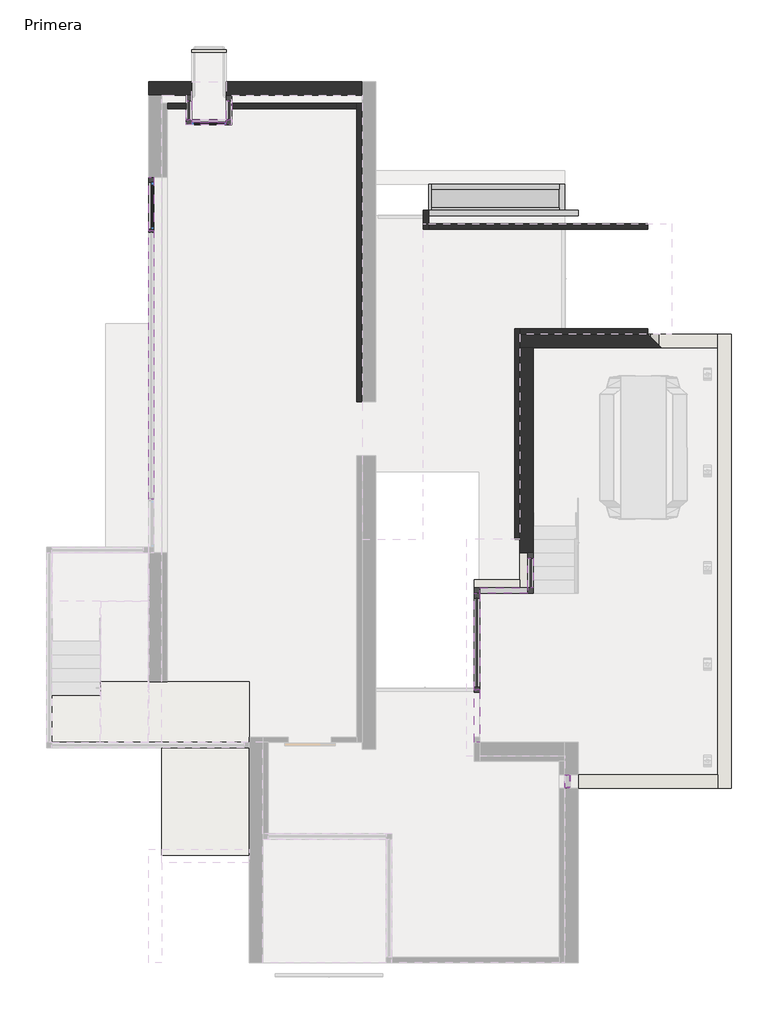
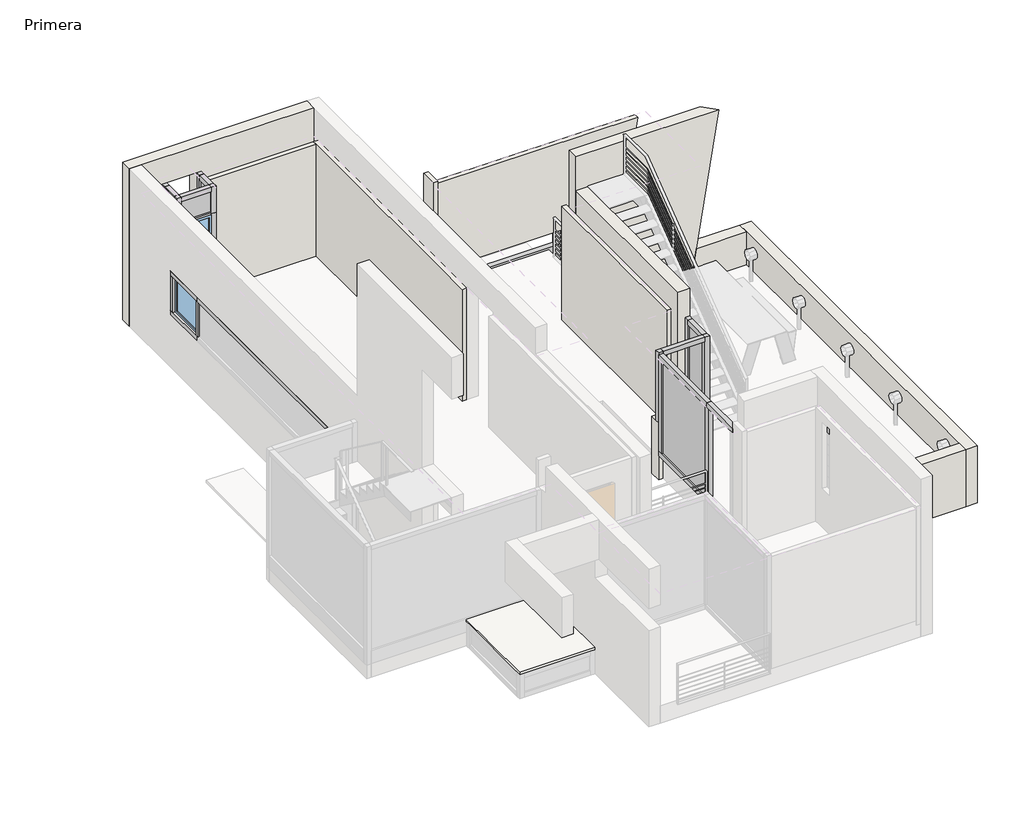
# One storey, part 2 of 3: 59 members, 15 walls, 8 plates, 2 windows, 1 slab.
"""IFC4 building model written with IfcOpenShell, lengths in millimetres."""

from ifc_helpers import new_model, si_unit, frame, origin, place, context, project, spatial, polyline, outline, extrude, faceted_brep, transform, mapped, element, save
from components import member_53e74821, member_35746a04, member_ea5f2fb6, member_b3e309fe, montante_rectangular_20dad572, montante_rectangular_c9d8d644, montante_rectangular_d329d11d, montante_rectangular_d5d69b61, montante_rectangular_8270ee6e, montante_rectangular_montante_rectangular_10_x_10_cm_5888d3a4, montante_rectangular_montante_rectangular_10_x_10_cm_89c0dae9, montante_rectangular_montante_rectangular_10_x_10_cm_12f51ba4, montante_rectangular_montante_rectangular_10_x_10_cm_d035b39a, montante_rectangular_montante_rectangular_10_x_10_cm_0e383af4, montante_rectangular_montante_rectangular_10_x_10_cm_1e5e4e1f, montante_rectangular_montante_rectangular_10_x_10_cm_71f1473e, montante_rectangular_montante_rectangular_10_x_10_cm_76212c23, montante_rectangular_montante_rectangular_10_x_10_cm_939e88b2, montante_rectangular_montante_rectangular_10_x_10_cm_9910a803, montante_rectangular_montante_rectangular_10_x_10_cm_3b1728c8, montante_rectangular_montante_rectangular_10_x_10_cm_3a18ed24, montante_rectangular_montante_rectangular_10_x_10_cm_2760fa18, montante_rectangular_montante_rectangular_10_x_10_cm_9171b38a, montante_rectangular_montante_rectangular_10_x_10_cm_30394dbc, montante_rectangular_montante_rectangular_10_x_10_cm_829b1a72, montante_rectangular_montante_rectangular_10_x_10_cm_59fce455, montante_rectangular_montante_rectangular_10_x_10_cm_853d8368, montante_rectangular_montante_rectangular_10_x_10_cm_39c741db, montante_rectangular_montante_rectangular_10_x_10_cm_77bf927c, montante_rectangular_montante_rectangular_10_x_10_cm_4ad2c390, montante_rectangular_montante_rectangular_10_x_10_cm_8664a1aa, montante_rectangular_montante_rectangular_10_x_10_cm_64f844ee, montante_rectangular_montante_rectangular_30_x_10_cm_1575974a, montante_rectangular_montante_rectangular_30_x_10_cm_28c26dfe, montante_rectangular_montante_rectangular_5_x_10_cm_f5fbba73, montante_rectangular_montante_rectangular_5_x_10_cm_4604db76, montante_rectangular_montante_rectangular_5_x_10_cm_2290ae2b, montante_rectangular_montante_rectangular_5_x_10_cm_23ce018d, montante_rectangular_montante_rectangular_50_x_10_cm_6a0f9e60, panel_de_sistema_f0514aad, panel_de_sistema_acristalado_718d59bf, panel_de_sistema_acristalado_a3c40d10, panel_de_sistema_acristalado_4d856043, panel_de_sistema_acristalado_f2764a35, panel_de_sistema_acristalado_8c370545, panel_de_sistema_uniforme_2ffce642, ventana_de_muro_cortina_ventana_de_muro_cortina_e1bbbce5, ventana_de_muro_cortina_ventana_de_muro_cortina_55f6ba8d

model = new_model("IFC4")

# Units and contexts
model_context = context("Model", 3, world=origin())
ifc_project = project(units=[si_unit("LENGTHUNIT", "METRE", prefix="MILLI")], contexts=[model_context])

# Site, building, storey
site = spatial("IfcSite", under=ifc_project)
building = spatial("IfcBuilding", under=site)
storey = spatial("IfcBuildingStorey", under=building, Name="Primera", Elevation=3000.0)

# Members
placement = place(None, origin())
member_shape = member_53e74821(model_context)
element("IfcMember", 1, ObjectType="Montante angular cuadrilátero : Montante cuadrilátero 1", at=placement, inside=storey, context=model_context, shape_type="MappedRepresentation", body=[
    mapped(member_shape, transform((2885.5350958, -5212.6669037, 4000.0), x_axis=(0.0, -1.0, 0.0), y_axis=(-1.0, 0.0, 0.0), z_axis=(0.0, 0.0, -1.0))),
])
member_2_shape = member_35746a04(model_context)
element("IfcMember", 2, ObjectType="Montante angular cuadrilátero : Montante cuadrilátero 1", at=placement, inside=storey, context=model_context, shape_type="MappedRepresentation", body=[
    mapped(member_2_shape, transform((935.5350958, 1819.072658, 3500.0), x_axis=(-1.0, 0.0, 0.0), y_axis=(0.0, 1.0, 0.0), z_axis=(0.0, 0.0, -1.0))),
])
element("IfcMember", 3, ObjectType="Montante angular cuadrilátero : Montante cuadrilátero 1", at=placement, inside=storey, context=model_context, shape_type="MappedRepresentation", body=[
    mapped(member_shape, transform((1883.6012558, -5212.6669037, 5600.0), x_axis=(-1.0, 0.0, 0.0), y_axis=(0.0, -1.0, 0.0), z_axis=(0.0, 0.0, 1.0))),
])
member_3_shape = member_ea5f2fb6(model_context)
element("IfcMember", 4, ObjectType="Montante angular cuadrilátero : Montante cuadrilátero 1", at=placement, inside=storey, context=model_context, shape_type="MappedRepresentation", body=[
    mapped(member_3_shape, transform((-2731.0601801, 3507.3330963, 3000.0), x_axis=(1.0, 0.0, 0.0), y_axis=(0.0, -1.0, 0.0), z_axis=(0.0, 0.0, -1.0))),
])
member_4_shape = member_b3e309fe(model_context)
element("IfcMember", 5, ObjectType="Montante angular cuadrilátero : Montante cuadrilátero 1", at=placement, inside=storey, context=model_context, shape_type="MappedRepresentation", body=[
    mapped(member_4_shape, transform((-2731.0601801, 3507.3330963, 5100.0), x_axis=(1.0, 0.0, 0.0), y_axis=(0.0, -1.0, 0.0), z_axis=(0.0, 0.0, -1.0))),
])
element("IfcMember", 6, ObjectType="Montante angular cuadrilátero : Montante cuadrilátero 1", at=placement, inside=storey, context=model_context, shape_type="MappedRepresentation", body=[
    mapped(member_4_shape, transform((-3481.0601801, 3507.3330963, 5700.0), x_axis=(-1.0, 0.0, 0.0), y_axis=(0.0, -1.0, 0.0), z_axis=(0.0, 0.0, 1.0))),
])
element("IfcMember", 7, ObjectType="Montante angular cuadrilátero : Montante cuadrilátero 1", at=placement, inside=storey, context=model_context, shape_type="MappedRepresentation", body=[
    mapped(member_3_shape, transform((-3481.0601801, 3507.3330963, 5100.0), x_axis=(-1.0, 0.0, 0.0), y_axis=(0.0, -1.0, 0.0), z_axis=(0.0, 0.0, 1.0))),
])
montante_rectangular_shape = montante_rectangular_20dad572(model_context)
element("IfcMember", 8, ObjectType="Montante rectangular : Junta de paves", at=placement, inside=storey, context=model_context, shape_type="MappedRepresentation", body=[
    mapped(montante_rectangular_shape, transform((3568.9398199, -8652.6669037, 5500.0), x_axis=(0.0, 0.0, 1.0), y_axis=(1.0, 0.0, 0.0), z_axis=(0.0, 1.0, 0.0))),
])
montante_rectangular_2_shape = montante_rectangular_c9d8d644(model_context)
element("IfcMember", 9, ObjectType="Montante rectangular : Junta de paves", at=placement, inside=storey, context=model_context, shape_type="MappedRepresentation", body=[
    mapped(montante_rectangular_2_shape, transform((3568.9398199, -8882.6669037, 4000.0), x_axis=(0.0, 0.0, -1.0), y_axis=(1.0, 0.0, 0.0), z_axis=(0.0, -1.0, 0.0))),
])
montante_rectangular_3_shape = montante_rectangular_d329d11d(model_context)
element("IfcMember", 10, ObjectType="Montante rectangular : Junta de paves", at=placement, inside=storey, context=model_context, shape_type="MappedRepresentation", body=[
    mapped(montante_rectangular_3_shape, transform((3568.9398199, -8652.6669037, 4250.0), x_axis=(0.0, 0.0, 1.0), y_axis=(1.0, 0.0, 0.0), z_axis=(0.0, 1.0, 0.0))),
])
element("IfcMember", 11, ObjectType="Montante rectangular : Junta de paves", at=placement, inside=storey, context=model_context, shape_type="MappedRepresentation", body=[
    mapped(montante_rectangular_3_shape, transform((3568.9398199, -8652.6669037, 4500.0), x_axis=(0.0, 0.0, 1.0), y_axis=(1.0, 0.0, 0.0), z_axis=(0.0, 1.0, 0.0))),
])
element("IfcMember", 12, ObjectType="Montante rectangular : Junta de paves", at=placement, inside=storey, context=model_context, shape_type="MappedRepresentation", body=[
    mapped(montante_rectangular_3_shape, transform((3568.9398199, -8652.6669037, 4750.0), x_axis=(0.0, 0.0, 1.0), y_axis=(1.0, 0.0, 0.0), z_axis=(0.0, 1.0, 0.0))),
])
element("IfcMember", 13, ObjectType="Montante rectangular : Junta de paves", at=placement, inside=storey, context=model_context, shape_type="MappedRepresentation", body=[
    mapped(montante_rectangular_3_shape, transform((3568.9398199, -8652.6669037, 5000.0), x_axis=(0.0, 0.0, 1.0), y_axis=(1.0, 0.0, 0.0), z_axis=(0.0, 1.0, 0.0))),
])
element("IfcMember", 14, ObjectType="Montante rectangular : Junta de paves", at=placement, inside=storey, context=model_context, shape_type="MappedRepresentation", body=[
    mapped(montante_rectangular_3_shape, transform((3568.9398199, -8652.6669037, 5250.0), x_axis=(0.0, 0.0, 1.0), y_axis=(1.0, 0.0, 0.0), z_axis=(0.0, 1.0, 0.0))),
])
montante_rectangular_4_shape = montante_rectangular_d5d69b61(model_context)
element("IfcMember", 15, ObjectType="Montante rectangular : Junta de paves", at=placement, inside=storey, context=model_context, shape_type="MappedRepresentation", body=[
    mapped(montante_rectangular_4_shape, transform((3568.9398199, -8642.6669037, 4000.0), x_axis=(0.0, 1.0, 0.0), y_axis=(1.0, 0.0, 0.0), z_axis=(0.0, 0.0, -1.0))),
])
element("IfcMember", 16, ObjectType="Montante rectangular : Junta de paves", at=placement, inside=storey, context=model_context, shape_type="MappedRepresentation", body=[
    mapped(montante_rectangular_4_shape, transform((3568.9398199, -8642.6669037, 4250.0), x_axis=(0.0, 1.0, 0.0), y_axis=(1.0, 0.0, 0.0), z_axis=(0.0, 0.0, -1.0))),
])
element("IfcMember", 17, ObjectType="Montante rectangular : Junta de paves", at=placement, inside=storey, context=model_context, shape_type="MappedRepresentation", body=[
    mapped(montante_rectangular_4_shape, transform((3568.9398199, -8642.6669037, 4500.0), x_axis=(0.0, 1.0, 0.0), y_axis=(1.0, 0.0, 0.0), z_axis=(0.0, 0.0, -1.0))),
])
element("IfcMember", 18, ObjectType="Montante rectangular : Junta de paves", at=placement, inside=storey, context=model_context, shape_type="MappedRepresentation", body=[
    mapped(montante_rectangular_4_shape, transform((3568.9398199, -8642.6669037, 4750.0), x_axis=(0.0, 1.0, 0.0), y_axis=(1.0, 0.0, 0.0), z_axis=(0.0, 0.0, -1.0))),
])
element("IfcMember", 19, ObjectType="Montante rectangular : Junta de paves", at=placement, inside=storey, context=model_context, shape_type="MappedRepresentation", body=[
    mapped(montante_rectangular_4_shape, transform((3568.9398199, -8642.6669037, 5000.0), x_axis=(0.0, 1.0, 0.0), y_axis=(1.0, 0.0, 0.0), z_axis=(0.0, 0.0, -1.0))),
])
element("IfcMember", 20, ObjectType="Montante rectangular : Junta de paves", at=placement, inside=storey, context=model_context, shape_type="MappedRepresentation", body=[
    mapped(montante_rectangular_4_shape, transform((3568.9398199, -8642.6669037, 5250.0), x_axis=(0.0, 1.0, 0.0), y_axis=(1.0, 0.0, 0.0), z_axis=(0.0, 0.0, -1.0))),
])
montante_rectangular_5_shape = montante_rectangular_8270ee6e(model_context)
element("IfcMember", 21, ObjectType="Montante rectangular : Junta de paves", at=placement, inside=storey, context=model_context, shape_type="MappedRepresentation", body=[
    mapped(montante_rectangular_5_shape, transform((3568.9398199, -8892.6669037, 5500.0), x_axis=(0.0, -1.0, 0.0), y_axis=(1.0, 0.0, 0.0), z_axis=(0.0, 0.0, 1.0))),
])
element("IfcMember", 22, ObjectType="Montante rectangular : Junta de paves", at=placement, inside=storey, context=model_context, shape_type="MappedRepresentation", body=[
    mapped(montante_rectangular_5_shape, transform((3568.9398199, -8892.6669037, 4250.0), x_axis=(0.0, -1.0, 0.0), y_axis=(1.0, 0.0, 0.0), z_axis=(0.0, 0.0, 1.0))),
])
element("IfcMember", 23, ObjectType="Montante rectangular : Junta de paves", at=placement, inside=storey, context=model_context, shape_type="MappedRepresentation", body=[
    mapped(montante_rectangular_5_shape, transform((3568.9398199, -8892.6669037, 4500.0), x_axis=(0.0, -1.0, 0.0), y_axis=(1.0, 0.0, 0.0), z_axis=(0.0, 0.0, 1.0))),
])
element("IfcMember", 24, ObjectType="Montante rectangular : Junta de paves", at=placement, inside=storey, context=model_context, shape_type="MappedRepresentation", body=[
    mapped(montante_rectangular_5_shape, transform((3568.9398199, -8892.6669037, 4750.0), x_axis=(0.0, -1.0, 0.0), y_axis=(1.0, 0.0, 0.0), z_axis=(0.0, 0.0, 1.0))),
])
element("IfcMember", 25, ObjectType="Montante rectangular : Junta de paves", at=placement, inside=storey, context=model_context, shape_type="MappedRepresentation", body=[
    mapped(montante_rectangular_5_shape, transform((3568.9398199, -8892.6669037, 5000.0), x_axis=(0.0, -1.0, 0.0), y_axis=(1.0, 0.0, 0.0), z_axis=(0.0, 0.0, 1.0))),
])
element("IfcMember", 26, ObjectType="Montante rectangular : Junta de paves", at=placement, inside=storey, context=model_context, shape_type="MappedRepresentation", body=[
    mapped(montante_rectangular_5_shape, transform((3568.9398199, -8892.6669037, 5250.0), x_axis=(0.0, -1.0, 0.0), y_axis=(1.0, 0.0, 0.0), z_axis=(0.0, 0.0, 1.0))),
])
montante_rectangular_montante_rectangular_10_x_10_cm_shape = montante_rectangular_montante_rectangular_10_x_10_cm_5888d3a4(model_context)
element("IfcMember", 27, ObjectType="Montante rectangular : Montante rectangular - 10 x 10 cm", at=placement, inside=storey, context=model_context, shape_type="MappedRepresentation", body=[
    mapped(montante_rectangular_montante_rectangular_10_x_10_cm_shape, transform((2885.5350958, -4512.6669037, 5600.0), x_axis=(0.0, 1.0, 0.0), y_axis=(-1.0, 0.0, 0.0), z_axis=(0.0, 0.0, 1.0))),
])
montante_rectangular_montante_rectangular_10_x_10_cm_2_shape = montante_rectangular_montante_rectangular_10_x_10_cm_89c0dae9(model_context)
element("IfcMember", 28, ObjectType="Montante rectangular : Montante rectangular - 10 x 10 cm", at=placement, inside=storey, context=model_context, shape_type="MappedRepresentation", body=[
    mapped(montante_rectangular_montante_rectangular_10_x_10_cm_2_shape, transform((1035.5350958, 2357.3330963, 2700.0), x_axis=(0.0, 1.0, 0.0), y_axis=(0.0, 0.0, -1.0), z_axis=(-1.0, 0.0, 0.0))),
])
montante_rectangular_montante_rectangular_10_x_10_cm_3_shape = montante_rectangular_montante_rectangular_10_x_10_cm_12f51ba4(model_context)
element("IfcMember", 29, ObjectType="Montante rectangular : Montante rectangular - 10 x 10 cm", at=placement, inside=storey, context=model_context, shape_type="MappedRepresentation", body=[
    mapped(montante_rectangular_montante_rectangular_10_x_10_cm_3_shape, transform((2885.5350958, -5162.6669037, 5600.0), x_axis=(0.0, 0.0, 1.0), y_axis=(-1.0, 0.0, 0.0), z_axis=(0.0, -1.0, 0.0))),
])
montante_rectangular_montante_rectangular_10_x_10_cm_4_shape = montante_rectangular_montante_rectangular_10_x_10_cm_d035b39a(model_context)
element("IfcMember", 30, ObjectType="Montante rectangular : Montante rectangular - 10 x 10 cm", at=placement, inside=storey, context=model_context, shape_type="MappedRepresentation", body=[
    mapped(montante_rectangular_montante_rectangular_10_x_10_cm_4_shape, transform((2885.5350958, -4612.6669037, 4000.0), x_axis=(0.0, 0.0, -1.0), y_axis=(-1.0, 0.0, 0.0), z_axis=(0.0, 1.0, 0.0))),
])
montante_rectangular_montante_rectangular_10_x_10_cm_5_shape = montante_rectangular_montante_rectangular_10_x_10_cm_0e383af4(model_context)
element("IfcMember", 31, ObjectType="Montante rectangular : Montante rectangular - 10 x 10 cm", at=placement, inside=storey, context=model_context, shape_type="MappedRepresentation", body=[
    mapped(montante_rectangular_montante_rectangular_10_x_10_cm_5_shape, transform((-3481.0601801, 4011.8960075, 5700.0), x_axis=(0.0, 1.0, 0.0), y_axis=(-1.0, 0.0, 0.0), z_axis=(0.0, 0.0, 1.0))),
])
montante_rectangular_montante_rectangular_10_x_10_cm_6_shape = montante_rectangular_montante_rectangular_10_x_10_cm_1e5e4e1f(model_context)
element("IfcMember", 32, ObjectType="Montante rectangular : Montante rectangular - 10 x 10 cm", at=placement, inside=storey, context=model_context, shape_type="MappedRepresentation", body=[
    mapped(montante_rectangular_montante_rectangular_10_x_10_cm_6_shape, transform((-2731.0601801, 4011.8960075, 3000.0), x_axis=(0.0, 1.0, 0.0), y_axis=(1.0, 0.0, 0.0), z_axis=(0.0, 0.0, -1.0))),
])
montante_rectangular_montante_rectangular_10_x_10_cm_7_shape = montante_rectangular_montante_rectangular_10_x_10_cm_71f1473e(model_context)
element("IfcMember", 33, ObjectType="Montante rectangular : Montante rectangular - 10 x 10 cm", at=placement, inside=storey, context=model_context, shape_type="MappedRepresentation", body=[
    mapped(montante_rectangular_montante_rectangular_10_x_10_cm_7_shape, transform((3768.9398199, 1819.072658, 3500.0), x_axis=(1.0, 0.0, 0.0), y_axis=(0.0, 1.0, 0.0), z_axis=(0.0, 0.0, 1.0))),
])
montante_rectangular_montante_rectangular_10_x_10_cm_8_shape = montante_rectangular_montante_rectangular_10_x_10_cm_76212c23(model_context)
element("IfcMember", 34, ObjectType="Montante rectangular : Montante rectangular - 10 x 10 cm", at=placement, inside=storey, context=model_context, shape_type="MappedRepresentation", body=[
    mapped(montante_rectangular_montante_rectangular_10_x_10_cm_8_shape, transform((-4181.0601801, 2487.3330963, 4000.0), x_axis=(0.0, 1.0, 0.0), y_axis=(1.0, 0.0, 0.0), z_axis=(0.0, 0.0, -1.0))),
])
montante_rectangular_montante_rectangular_10_x_10_cm_9_shape = montante_rectangular_montante_rectangular_10_x_10_cm_939e88b2(model_context)
element("IfcMember", 35, ObjectType="Montante rectangular : Montante rectangular - 10 x 10 cm", at=placement, inside=storey, context=model_context, shape_type="MappedRepresentation", body=[
    mapped(montante_rectangular_montante_rectangular_10_x_10_cm_9_shape, transform((-4181.0601801, 2487.3330963, 4900.0), x_axis=(0.0, 0.0, 1.0), y_axis=(1.0, 0.0, 0.0), z_axis=(0.0, 1.0, 0.0))),
])
montante_rectangular_montante_rectangular_10_x_10_cm_10_shape = montante_rectangular_montante_rectangular_10_x_10_cm_9910a803(model_context)
element("IfcMember", 36, ObjectType="Montante rectangular : Montante rectangular - 10 x 10 cm", at=placement, inside=storey, context=model_context, shape_type="MappedRepresentation", body=[
    mapped(montante_rectangular_montante_rectangular_10_x_10_cm_10_shape, transform((-4181.0601801, 1487.3330963, 4900.0), x_axis=(0.0, 0.0, 1.0), y_axis=(1.0, 0.0, 0.0), z_axis=(0.0, 1.0, 0.0))),
])
montante_rectangular_montante_rectangular_10_x_10_cm_11_shape = montante_rectangular_montante_rectangular_10_x_10_cm_3b1728c8(model_context)
element("IfcMember", 37, ObjectType="Montante rectangular : Montante rectangular - 10 x 10 cm", at=placement, inside=storey, context=model_context, shape_type="MappedRepresentation", body=[
    mapped(montante_rectangular_montante_rectangular_10_x_10_cm_11_shape, transform((-4181.0601801, 1487.3330963, 3900.0), x_axis=(0.0, 0.0, -1.0), y_axis=(1.0, 0.0, 0.0), z_axis=(0.0, -1.0, 0.0))),
])
montante_rectangular_montante_rectangular_10_x_10_cm_12_shape = montante_rectangular_montante_rectangular_10_x_10_cm_3a18ed24(model_context)
element("IfcMember", 38, ObjectType="Montante rectangular : Montante rectangular - 10 x 10 cm", at=placement, inside=storey, context=model_context, shape_type="MappedRepresentation", body=[
    mapped(montante_rectangular_montante_rectangular_10_x_10_cm_12_shape, transform((3768.9398199, 1819.072658, 3550.0), x_axis=(1.0, 0.0, 0.0), y_axis=(0.0, 1.0, 0.0), z_axis=(0.0, 0.0, 1.0))),
])
montante_rectangular_montante_rectangular_10_x_10_cm_13_shape = montante_rectangular_montante_rectangular_10_x_10_cm_2760fa18(model_context)
element("IfcMember", 39, ObjectType="Montante rectangular : Montante rectangular - 10 x 10 cm", at=placement, inside=storey, context=model_context, shape_type="MappedRepresentation", body=[
    mapped(montante_rectangular_montante_rectangular_10_x_10_cm_13_shape, transform((935.5350958, 1819.072658, 3150.0), x_axis=(-1.0, 0.0, 0.0), y_axis=(0.0, 1.0, 0.0), z_axis=(0.0, 0.0, -1.0))),
])
montante_rectangular_montante_rectangular_10_x_10_cm_14_shape = montante_rectangular_montante_rectangular_10_x_10_cm_9171b38a(model_context)
element("IfcMember", 40, ObjectType="Montante rectangular : Montante rectangular - 10 x 10 cm", at=placement, inside=storey, context=model_context, shape_type="MappedRepresentation", body=[
    mapped(montante_rectangular_montante_rectangular_10_x_10_cm_14_shape, transform((3518.9398199, 2357.3330963, 2700.0), x_axis=(1.0, 0.0, 0.0), y_axis=(0.0, 0.0, -1.0), z_axis=(0.0, 1.0, 0.0))),
])
montante_rectangular_montante_rectangular_10_x_10_cm_15_shape = montante_rectangular_montante_rectangular_10_x_10_cm_30394dbc(model_context)
element("IfcMember", 41, ObjectType="Montante rectangular : Montante rectangular - 10 x 10 cm", at=placement, inside=storey, context=model_context, shape_type="MappedRepresentation", body=[
    mapped(montante_rectangular_montante_rectangular_10_x_10_cm_15_shape, transform((935.5350958, 1819.072658, 3650.0), x_axis=(0.0, 0.0, 1.0), y_axis=(0.0, 1.0, 0.0), z_axis=(-1.0, 0.0, 0.0))),
])
montante_rectangular_montante_rectangular_10_x_10_cm_16_shape = montante_rectangular_montante_rectangular_10_x_10_cm_829b1a72(model_context)
element("IfcMember", 42, ObjectType="Montante rectangular : Montante rectangular - 10 x 10 cm", at=placement, inside=storey, context=model_context, shape_type="MappedRepresentation", body=[
    mapped(montante_rectangular_montante_rectangular_10_x_10_cm_16_shape, transform((1883.6012558, -5262.6669037, 5550.0), x_axis=(0.0, 0.0, 1.0), y_axis=(1.0, 0.0, 0.0), z_axis=(0.0, 1.0, 0.0))),
])
montante_rectangular_montante_rectangular_10_x_10_cm_17_shape = montante_rectangular_montante_rectangular_10_x_10_cm_59fce455(model_context)
element("IfcMember", 43, ObjectType="Montante rectangular : Montante rectangular - 10 x 10 cm", at=placement, inside=storey, context=model_context, shape_type="MappedRepresentation", body=[
    mapped(montante_rectangular_montante_rectangular_10_x_10_cm_17_shape, transform((1883.6012558, -7062.6669037, 5550.0), x_axis=(0.0, 0.0, 1.0), y_axis=(1.0, 0.0, 0.0), z_axis=(0.0, 1.0, 0.0))),
])
montante_rectangular_montante_rectangular_10_x_10_cm_18_shape = montante_rectangular_montante_rectangular_10_x_10_cm_853d8368(model_context)
element("IfcMember", 44, ObjectType="Montante rectangular : Montante rectangular - 10 x 10 cm", at=placement, inside=storey, context=model_context, shape_type="MappedRepresentation", body=[
    mapped(montante_rectangular_montante_rectangular_10_x_10_cm_18_shape, transform((1883.6012558, -7112.6669037, 3250.0), x_axis=(0.0, 0.0, -1.0), y_axis=(1.0, 0.0, 0.0), z_axis=(0.0, -1.0, 0.0))),
])
montante_rectangular_montante_rectangular_10_x_10_cm_19_shape = montante_rectangular_montante_rectangular_10_x_10_cm_39c741db(model_context)
element("IfcMember", 45, ObjectType="Montante rectangular : Montante rectangular - 10 x 10 cm", at=placement, inside=storey, context=model_context, shape_type="MappedRepresentation", body=[
    mapped(montante_rectangular_montante_rectangular_10_x_10_cm_19_shape, transform((2835.5350958, -5212.6669037, 5600.0), x_axis=(0.0, 0.0, 1.0), y_axis=(0.0, -1.0, 0.0), z_axis=(1.0, 0.0, 0.0))),
])
montante_rectangular_montante_rectangular_10_x_10_cm_20_shape = montante_rectangular_montante_rectangular_10_x_10_cm_77bf927c(model_context)
element("IfcMember", 46, ObjectType="Montante rectangular : Montante rectangular - 10 x 10 cm", at=placement, inside=storey, context=model_context, shape_type="MappedRepresentation", body=[
    mapped(montante_rectangular_montante_rectangular_10_x_10_cm_20_shape, transform((1933.6012558, -5212.6669037, 4000.0), x_axis=(0.0, 0.0, -1.0), y_axis=(0.0, -1.0, 0.0), z_axis=(-1.0, 0.0, 0.0))),
])
montante_rectangular_montante_rectangular_10_x_10_cm_21_shape = montante_rectangular_montante_rectangular_10_x_10_cm_4ad2c390(model_context)
element("IfcMember", 47, ObjectType="Montante rectangular : Montante rectangular - 10 x 10 cm", at=placement, inside=storey, context=model_context, shape_type="MappedRepresentation", body=[
    mapped(montante_rectangular_montante_rectangular_10_x_10_cm_21_shape, transform((1883.6012558, -5262.6669037, 3350.0), x_axis=(0.0, 1.0, 0.0), y_axis=(1.0, 0.0, 0.0), z_axis=(0.0, 0.0, -1.0))),
])
element("IfcMember", 48, ObjectType="Montante rectangular : Montante rectangular - 10 x 10 cm", at=placement, inside=storey, context=model_context, shape_type="MappedRepresentation", body=[
    mapped(member_3_shape, transform((1883.6012558, -7062.6669037, 3350.0), x_axis=(0.0, 1.0, 0.0), y_axis=(1.0, 0.0, 0.0), z_axis=(0.0, 0.0, -1.0))),
])
montante_rectangular_montante_rectangular_10_x_10_cm_22_shape = montante_rectangular_montante_rectangular_10_x_10_cm_8664a1aa(model_context)
element("IfcMember", 49, ObjectType="Montante rectangular : Montante rectangular - 10 x 10 cm", at=placement, inside=storey, context=model_context, shape_type="MappedRepresentation", body=[
    mapped(montante_rectangular_montante_rectangular_10_x_10_cm_22_shape, transform((-2781.0601801, 3507.3330963, 5700.0), x_axis=(0.0, 0.0, 1.0), y_axis=(0.0, -1.0, 0.0), z_axis=(1.0, 0.0, 0.0))),
])
montante_rectangular_montante_rectangular_10_x_10_cm_23_shape = montante_rectangular_montante_rectangular_10_x_10_cm_64f844ee(model_context)
element("IfcMember", 50, ObjectType="Montante rectangular : Montante rectangular - 10 x 10 cm", at=placement, inside=storey, context=model_context, shape_type="MappedRepresentation", body=[
    mapped(montante_rectangular_montante_rectangular_10_x_10_cm_23_shape, transform((-3481.0601801, 3557.3330963, 5700.0), x_axis=(0.0, 0.0, 1.0), y_axis=(-1.0, 0.0, 0.0), z_axis=(0.0, -1.0, 0.0))),
])
element("IfcMember", 51, ObjectType="Montante rectangular : Montante rectangular - 10 x 10 cm", at=placement, inside=storey, context=model_context, shape_type="MappedRepresentation", body=[
    mapped(montante_rectangular_montante_rectangular_10_x_10_cm_23_shape, transform((-2731.0601801, 3911.8960075, 5700.0), x_axis=(0.0, 0.0, 1.0), y_axis=(1.0, 0.0, 0.0), z_axis=(0.0, 1.0, 0.0))),
])
montante_rectangular_montante_rectangular_30_x_10_cm_shape = montante_rectangular_montante_rectangular_30_x_10_cm_1575974a(model_context)
element("IfcMember", 52, ObjectType="Montante rectangular : Montante rectangular - 30 x 10 cm", at=placement, inside=storey, context=model_context, shape_type="MappedRepresentation", body=[
    mapped(montante_rectangular_montante_rectangular_30_x_10_cm_shape, transform((-3431.0601801, 3507.3330963, 3000.0), x_axis=(0.0, 0.0, -1.0), y_axis=(0.0, -1.0, 0.0), z_axis=(-1.0, 0.0, 0.0))),
])
montante_rectangular_montante_rectangular_30_x_10_cm_2_shape = montante_rectangular_montante_rectangular_30_x_10_cm_28c26dfe(model_context)
element("IfcMember", 53, ObjectType="Montante rectangular : Montante rectangular - 30 x 10 cm", at=placement, inside=storey, context=model_context, shape_type="MappedRepresentation", body=[
    mapped(montante_rectangular_montante_rectangular_30_x_10_cm_2_shape, transform((-3481.0601801, 3911.8960075, 3000.0), x_axis=(0.0, 0.0, -1.0), y_axis=(-1.0, 0.0, 0.0), z_axis=(0.0, 1.0, 0.0))),
])
element("IfcMember", 54, ObjectType="Montante rectangular : Montante rectangular - 30 x 10 cm", at=placement, inside=storey, context=model_context, shape_type="MappedRepresentation", body=[
    mapped(montante_rectangular_montante_rectangular_30_x_10_cm_2_shape, transform((-2731.0601801, 3557.3330963, 3000.0), x_axis=(0.0, 0.0, -1.0), y_axis=(1.0, 0.0, 0.0), z_axis=(0.0, -1.0, 0.0))),
])
montante_rectangular_montante_rectangular_5_x_10_cm_shape = montante_rectangular_montante_rectangular_5_x_10_cm_f5fbba73(model_context)
element("IfcMember", 55, ObjectType="Montante rectangular : Montante rectangular - 5 x 10 cm", at=placement, inside=storey, context=model_context, shape_type="MappedRepresentation", body=[
    mapped(montante_rectangular_montante_rectangular_5_x_10_cm_shape, transform((3418.9398199, 1869.072658, 2700.0), x_axis=(0.0, -1.0, 0.0), y_axis=(0.0, 0.0, -1.0), z_axis=(1.0, 0.0, 0.0))),
])
montante_rectangular_montante_rectangular_5_x_10_cm_2_shape = montante_rectangular_montante_rectangular_5_x_10_cm_4604db76(model_context)
element("IfcMember", 56, ObjectType="Montante rectangular : Montante rectangular - 5 x 10 cm", at=placement, inside=storey, context=model_context, shape_type="MappedRepresentation", body=[
    mapped(montante_rectangular_montante_rectangular_5_x_10_cm_2_shape, transform((-4181.0601801, 1487.3330963, 4000.0), x_axis=(0.0, 1.0, 0.0), y_axis=(1.0, 0.0, 0.0), z_axis=(0.0, 0.0, -1.0))),
])
montante_rectangular_montante_rectangular_5_x_10_cm_3_shape = montante_rectangular_montante_rectangular_5_x_10_cm_2290ae2b(model_context)
element("IfcMember", 57, ObjectType="Montante rectangular : Montante rectangular - 5 x 10 cm", at=placement, inside=storey, context=model_context, shape_type="MappedRepresentation", body=[
    mapped(montante_rectangular_montante_rectangular_5_x_10_cm_3_shape, transform((-2781.0601801, 3507.3330963, 5100.0), x_axis=(0.0, 0.0, 1.0), y_axis=(0.0, -1.0, 0.0), z_axis=(1.0, 0.0, 0.0))),
])
montante_rectangular_montante_rectangular_5_x_10_cm_4_shape = montante_rectangular_montante_rectangular_5_x_10_cm_23ce018d(model_context)
element("IfcMember", 58, ObjectType="Montante rectangular : Montante rectangular - 5 x 10 cm", at=placement, inside=storey, context=model_context, shape_type="MappedRepresentation", body=[
    mapped(montante_rectangular_montante_rectangular_5_x_10_cm_4_shape, transform((985.5350958, 1869.072658, 2700.0), x_axis=(-1.0, 0.0, 0.0), y_axis=(0.0, 0.0, -1.0), z_axis=(0.0, -1.0, 0.0))),
])
montante_rectangular_montante_rectangular_50_x_10_cm_shape = montante_rectangular_montante_rectangular_50_x_10_cm_6a0f9e60(model_context)
element("IfcMember", 59, ObjectType="Montante rectangular : Montante rectangular - 50 x 10 cm", at=placement, inside=storey, context=model_context, shape_type="MappedRepresentation", body=[
    mapped(montante_rectangular_montante_rectangular_50_x_10_cm_shape, transform((3768.9398199, 1819.072658, 2650.0), x_axis=(0.0, 0.0, -1.0), y_axis=(0.0, 1.0, 0.0), z_axis=(1.0, 0.0, 0.0))),
])

# Plates
panel_de_sistema_shape = panel_de_sistema_f0514aad(model_context)
element("IfcPlate", 60, ObjectType="Panel de sistema : PAVES", at=placement, inside=storey, context=model_context, shape_type="MappedRepresentation", body=[
    mapped(panel_de_sistema_shape, transform((3568.9398199, -8767.6669037, 5255.0), x_axis=(0.0, 1.0, 0.0), y_axis=(-1.0, 0.0, 0.0), z_axis=(0.0, 0.0, 1.0))),
])
panel_de_sistema_acristalado_shape = panel_de_sistema_acristalado_718d59bf(model_context)
element("IfcPlate", 61, ObjectType="Panel de sistema : Acristalado", at=placement, inside=storey, context=model_context, shape_type="MappedRepresentation", body=[
    mapped(panel_de_sistema_acristalado_shape, transform((2885.5350958, -4887.6669037, 4100.0), x_axis=(0.0, -1.0, 0.0), y_axis=(1.0, 0.0, 0.0), z_axis=(0.0, 0.0, 1.0))),
])
panel_de_sistema_acristalado_2_shape = panel_de_sistema_acristalado_a3c40d10(model_context)
element("IfcPlate", 62, ObjectType="Panel de sistema : Acristalado", at=placement, inside=storey, context=model_context, shape_type="MappedRepresentation", body=[
    mapped(panel_de_sistema_acristalado_2_shape, transform((-3106.0601801, 3507.3330963, 5125.0), x_axis=(1.0, 0.0, 0.0), y_axis=(0.0, 1.0, 0.0), z_axis=(0.0, 0.0, 1.0))),
])
panel_de_sistema_acristalado_3_shape = panel_de_sistema_acristalado_4d856043(model_context)
element("IfcPlate", 63, ObjectType="Panel de sistema : Acristalado", at=placement, inside=storey, context=model_context, shape_type="MappedRepresentation", body=[
    mapped(panel_de_sistema_acristalado_3_shape, transform((2227.2374579, 1919.072658, 2700.0), x_axis=(1.0, 0.0, 0.0), y_axis=(0.0, 0.0, -1.0), z_axis=(0.0, 1.0, 0.0))),
])
panel_de_sistema_acristalado_4_shape = panel_de_sistema_acristalado_f2764a35(model_context)
element("IfcPlate", 64, ObjectType="Panel de sistema : Acristalado", at=placement, inside=storey, context=model_context, shape_type="MappedRepresentation", body=[
    mapped(panel_de_sistema_acristalado_4_shape, transform((1883.6012558, -6187.6669037, 3350.0), x_axis=(0.0, 1.0, 0.0), y_axis=(-1.0, 0.0, 0.0), z_axis=(0.0, 0.0, 1.0))),
])
panel_de_sistema_acristalado_5_shape = panel_de_sistema_acristalado_8c370545(model_context)
element("IfcPlate", 65, ObjectType="Panel de sistema : Acristalado", at=placement, inside=storey, context=model_context, shape_type="MappedRepresentation", body=[
    mapped(panel_de_sistema_acristalado_5_shape, transform((-3481.0601801, 3734.6145519, 3300.0), x_axis=(0.0, -1.0, 0.0), y_axis=(1.0, 0.0, 0.0), z_axis=(0.0, 0.0, 1.0))),
])
element("IfcPlate", 66, ObjectType="Panel de sistema : Acristalado", at=placement, inside=storey, context=model_context, shape_type="MappedRepresentation", body=[
    mapped(panel_de_sistema_acristalado_5_shape, transform((-2731.0601801, 3734.6145519, 3300.0), x_axis=(0.0, 1.0, 0.0), y_axis=(-1.0, 0.0, 0.0), z_axis=(0.0, 0.0, 1.0))),
])
panel_de_sistema_uniforme_shape = panel_de_sistema_uniforme_2ffce642(model_context)
element("IfcPlate", 67, ObjectType="Panel de sistema : Uniforme", at=placement, inside=storey, context=model_context, shape_type="MappedRepresentation", body=[
    mapped(panel_de_sistema_uniforme_shape, transform((2327.2374579, 1819.072658, 3500.0), x_axis=(-1.0, 0.0, 0.0), y_axis=(0.0, -1.0, 0.0), z_axis=(0.0, 0.0, 1.0))),
])

# Slab
element("IfcSlab", 68, ObjectType="Solado aluminio", at=placement, inside=storey, context=model_context, shape_type="SweptSolid", body=[
    extrude(outline(polyline([(-6031.0601801, -6912.6669037), (-2353.1025942, -6912.6669037), (-2353.1025942, -10142.6669037), (-3981.0601801, -10142.6669037), (-3981.0601801, -8042.6669037), (-6031.0601801, -8042.6669037), (-6031.0601801, -6912.6669037)])), frame((0.0, 0.0, 3250.0), z_axis=(0.0, 0.0, 1.0), x_axis=(1.0, 0.0, 0.0)), (0.0, 0.0, 1.0), 50.0),
])

# Walls
element("IfcWall", 69, ObjectType="Hormigón - 25 cm", at=placement, inside=storey, context=model_context, shape_type="Brep", body=[
    faceted_brep([(5121.690629, -693.1853621, 3000.0), (5768.9398199, -693.1853621, 7000.0), (2685.5350958, -693.1853621, 7000.0), (2685.5350958, -693.1853621, 6230.0), (2685.5350958, -693.1853621, 3000.0), (3768.9398199, -693.1853621, 3000.0), (4868.4388743, -443.1853621, 3000.0), (3768.9398199, -443.1853621, 3000.0), (2685.5350958, -443.1853621, 3000.0), (2685.5350958, -443.1853621, 7000.0), (5515.6880653, -443.1853621, 7000.0), (5394.328842, -443.1853621, 6250.0), (5297.2414633, -443.1853621, 5650.0)], [[[0, 1, 2, 3, 4, 5]], [[6, 7, 8, 9, 10, 11, 12]], [[2, 1, 10, 9]], [[0, 5, 4, 8, 7, 6]], [[1, 0, 6, 12, 11, 10]], [[4, 3, 2, 9, 8]]]),
])
element("IfcWall", 70, ObjectType="Hormigón - 25 cm", at=placement, inside=storey, context=model_context, shape_type="Brep", body=[
    faceted_brep([(2935.5350958, -693.1853621, 6230.0), (2935.5350958, -4512.6669037, 6230.0), (2935.5350958, -4512.6669037, 4000.0), (2935.5350958, -5262.6669037, 4000.0), (2935.5350958, -5262.6669037, 2700.0), (2935.5350958, -693.1853621, 2700.0), (2685.5350958, -4512.6669037, 6230.0), (2685.5350958, -4262.6669037, 6230.0), (2685.5350958, -693.1853621, 6230.0), (2685.5350958, -693.1853621, 3100.0), (2685.5350958, -693.1853621, 3000.0), (2685.5350958, -693.1853621, 2700.0), (2685.5350958, -5012.6669037, 2700.0), (2685.5350958, -5262.6669037, 2700.0), (2685.5350958, -5262.6669037, 4000.0), (2685.5350958, -5012.6669037, 4000.0), (2685.5350958, -4512.6669037, 4000.0), (2685.5350958, -4512.6669037, 5550.0)], [[[0, 1, 2, 3, 4, 5]], [[6, 7, 8, 9, 10, 11, 12, 13, 14, 15, 16, 17]], [[1, 0, 8, 7, 6]], [[3, 2, 16, 15, 14]], [[5, 4, 13, 12, 11]], [[0, 5, 11, 10, 9, 8]], [[4, 3, 14, 13]], [[2, 1, 6, 17, 16]]]),
])
element("IfcWall", 71, ObjectType="Hormigón - 25 cm", at=placement, inside=storey, context=model_context, shape_type="Brep", body=[
    faceted_brep([(-250.8601801, 4261.8960075, 2700.0), (-4231.0601801, 4261.8960075, 2700.0), (-4231.0601801, 4261.8960075, 6300.0), (-250.8601801, 4261.8960075, 6300.0), (-2781.0601801, 4261.8960075, 3250.0), (-2781.0601801, 4261.8960075, 5700.0), (-3431.0601801, 4261.8960075, 5700.0), (-3431.0601801, 4261.8960075, 3250.0), (-250.8601801, 4011.8960075, 2700.0), (-250.8601801, 4011.8960075, 6300.0), (-3981.0601801, 4011.8960075, 6300.0), (-4231.0601801, 4011.8960075, 6300.0), (-4231.0601801, 4011.8960075, 2700.0), (-3981.0601801, 4011.8960075, 2700.0), (-2781.0601801, 4011.8960075, 3250.0), (-3431.0601801, 4011.8960075, 3250.0), (-3431.0601801, 4011.8960075, 5700.0), (-2781.0601801, 4011.8960075, 5700.0)], [[[0, 1, 2, 3], [4, 5, 6, 7]], [[8, 9, 10, 11, 12, 13], [14, 15, 16, 17]], [[0, 3, 9, 8]], [[2, 1, 12, 11]], [[1, 0, 8, 13, 12]], [[3, 2, 11, 10, 9]], [[5, 4, 14, 17]], [[6, 5, 17, 16]], [[7, 6, 16, 15]], [[4, 7, 15, 14]]]),
])
element("IfcWall", 72, ObjectType="Hormigón - 25 cm", at=placement, inside=storey, context=model_context, shape_type="SweptSolid", body=[
    extrude(outline(polyline([(2685.5350958, -5262.6669037), (1833.6012558, -5262.6669037), (1833.6012558, -5012.6669037), (2685.5350958, -5012.6669037), (2685.5350958, -5262.6669037)])), frame((0.0, 0.0, 2700.0), z_axis=(0.0, 0.0, 1.0), x_axis=(1.0, 0.0, 0.0)), (0.0, 0.0, 1.0), 1300.0),
])
element("IfcWall", 73, ObjectType="Hormigón - 25 cm", at=placement, inside=storey, context=model_context, shape_type="Brep", body=[
    faceted_brep([(6621.690629, -8892.6669037, 2700.0), (6621.690629, -443.1853621, 2700.0), (6621.690629, -443.1853621, 4000.0), (6621.690629, -8892.6669037, 4000.0), (6371.690629, -8892.6669037, 2700.0), (6371.690629, -8892.6669037, 4000.0), (6371.690629, -8642.6669037, 4000.0), (6371.690629, -693.1853621, 4000.0), (6371.690629, -443.1853621, 4000.0), (6371.690629, -443.1853621, 2700.0), (6371.690629, -693.1853621, 2700.0), (6371.690629, -8642.6669037, 2700.0)], [[[0, 1, 2, 3]], [[4, 5, 6, 7, 8, 9, 10, 11]], [[1, 0, 4, 11, 10, 9]], [[3, 2, 8, 7, 6, 5]], [[0, 3, 5, 4]], [[2, 1, 9, 8]]]),
])
element("IfcWall", 74, ObjectType="Hormigón - 25 cm", at=placement, inside=storey, context=model_context, shape_type="SweptSolid", body=[
    extrude(outline(polyline([(6371.690629, -8892.6669037), (3768.9398199, -8892.6669037), (3768.9398199, -8642.6669037), (6371.690629, -8642.6669037), (6371.690629, -8892.6669037)])), frame((0.0, 0.0, 2700.0), z_axis=(0.0, 0.0, 1.0), x_axis=(1.0, 0.0, 0.0)), (0.0, 0.0, 1.0), 1300.0),
])
element("IfcWall", 75, ObjectType="Hormigón - 25 cm", at=placement, inside=storey, context=model_context, shape_type="Brep", body=[
    faceted_brep([(6371.690629, -443.1853621, 2700.0), (3768.9398199, -443.1853621, 2700.0), (3768.9398199, -443.1853621, 3000.0), (4868.4388743, -443.1853621, 3000.0), (5121.690629, -443.1853621, 3000.0), (5283.5029267, -443.1853621, 4000.0), (6371.690629, -443.1853621, 4000.0), (3768.9398199, -693.1853621, 2700.0), (6371.690629, -693.1853621, 2700.0), (6371.690629, -693.1853621, 4000.0), (5283.5029267, -693.1853621, 4000.0), (5121.690629, -693.1853621, 3000.0), (3768.9398199, -693.1853621, 3000.0)], [[[0, 1, 2, 3, 4, 5, 6]], [[7, 8, 9, 10, 11, 12]], [[1, 0, 8, 7]], [[9, 6, 5, 10]], [[0, 6, 9, 8]], [[1, 7, 12, 2]], [[2, 12, 11, 4, 3]], [[4, 11, 10, 5]]]),
])
element("IfcWall", 76, ObjectType="Trasdosado de placa de yeso laminando", at=placement, inside=storey, context=model_context, shape_type="SweptSolid", body=[
    extrude(outline(polyline([(-3531.0601801, 3757.3330963), (-3881.0601801, 3757.3330963), (-3881.0601801, 3857.3330963), (-3531.0601801, 3857.3330963), (-3531.0601801, 3757.3330963)])), frame((0.0, 0.0, 3000.0), z_axis=(0.0, 0.0, 1.0), x_axis=(1.0, 0.0, 0.0)), (0.0, 0.0, 1.0), 2700.0),
])
element("IfcWall", 77, ObjectType="Trasdosado de placa de yeso laminando", at=placement, inside=storey, context=model_context, shape_type="SweptSolid", body=[
    extrude(outline(polyline([(-350.8601801, 3757.3330963), (-2681.0601801, 3757.3330963), (-2681.0601801, 3857.3330963), (-350.8601801, 3857.3330963), (-350.8601801, 3757.3330963)])), frame((0.0, 0.0, 3100.0), z_axis=(0.0, 0.0, 1.0), x_axis=(1.0, 0.0, 0.0)), (0.0, 0.0, 1.0), 2550.0),
])
element("IfcWall", 78, ObjectType="Trasdosado de placa de yeso laminando", at=placement, inside=storey, context=model_context, shape_type="Brep", body=[
    faceted_brep([(-250.8601801, 1769.072658, 3100.0), (-250.8601801, 3857.3330963, 3100.0), (-250.8601801, 3857.3330963, 5650.0), (-250.8601801, -1702.6669037, 5650.0), (-250.8601801, -1702.6669037, 3100.0), (-350.8601801, 3857.3330963, 3100.0), (-350.8601801, 3757.3330963, 3100.0), (-350.8601801, -1702.6669037, 3100.0), (-350.8601801, -1702.6669037, 5650.0), (-350.8601801, 3757.3330963, 5650.0), (-350.8601801, 3857.3330963, 5650.0)], [[[0, 1, 2, 3, 4]], [[5, 6, 7, 8, 9, 10]], [[7, 4, 3, 8]], [[1, 5, 10, 2]], [[1, 0, 4, 7, 6, 5]], [[3, 2, 10, 9, 8]]]),
])
element("IfcWall", 79, ObjectType="Trasdosado de placa de yeso laminando", at=placement, inside=storey, context=model_context, shape_type="Brep", body=[
    faceted_brep([(2685.5350958, -4262.6669037, 3000.0), (2685.5350958, -443.1853621, 3000.0), (2685.5350958, -343.1853621, 3000.0), (2685.5350958, -343.1853621, 5700.0), (2685.5350958, -443.1853621, 5700.0), (2685.5350958, -4262.6669037, 5700.0), (2685.5350958, -4262.6669037, 5550.0), (2585.5350958, -4262.6669037, 3000.0), (2585.5350958, -4262.6669037, 5700.0), (2585.5350958, -343.1853621, 5700.0), (2585.5350958, -343.1853621, 3000.0)], [[[0, 1, 2, 3, 4, 5, 6]], [[7, 8, 9, 10]], [[2, 1, 0, 7, 10]], [[5, 4, 3, 9, 8]], [[3, 2, 10, 9]], [[0, 6, 5, 8, 7]]]),
])
element("IfcWall", 80, ObjectType="Trasdosado de placa de yeso laminando", at=placement, inside=storey, context=model_context, shape_type="SweptSolid", body=[
    extrude(outline(polyline([(3000.0, 4868.4388743), (5650.0, 5297.2414633), (5650.0, 2685.5350958), (3100.0, 2685.5350958), (3100.0, 3518.9398199), (3000.0, 3518.9398199), (3000.0, 4868.4388743)])), frame((0.0, -443.1853621, 0.0), z_axis=(0.0, 1.0, 0.0), x_axis=(0.0, 0.0, 1.0)), (0.0, 0.0, 1.0), 100.0),
])
element("IfcWall", 81, ObjectType="Trasdosado de placa de yeso laminando", at=placement, inside=storey, context=model_context, shape_type="Brep", body=[
    faceted_brep([(885.5350958, 1869.072658, 3000.0), (885.5350958, 1519.072658, 3000.0), (885.5350958, 1519.072658, 5700.0), (885.5350958, 1869.072658, 5700.0), (985.5350958, 1869.072658, 3000.0), (985.5350958, 1869.072658, 3650.0), (985.5350958, 1869.072658, 5700.0), (985.5350958, 1619.072658, 5700.0), (985.5350958, 1519.072658, 5700.0), (985.5350958, 1519.072658, 3000.0), (985.5350958, 1619.072658, 3000.0)], [[[0, 1, 2, 3]], [[4, 5, 6, 7, 8, 9, 10]], [[1, 0, 4, 10, 9]], [[3, 2, 8, 7, 6]], [[2, 1, 9, 8]], [[0, 3, 6, 5, 4]]]),
])
element("IfcWall", 82, ObjectType="Trasdosado de placa de yeso laminando", at=placement, inside=storey, context=model_context, shape_type="SweptSolid", body=[
    extrude(outline(polyline([(3000.0, 3768.9398199), (3000.0, 4868.4388743), (5650.0, 5297.2414633), (5650.0, 985.5350958), (3650.0, 985.5350958), (3650.0, 3768.9398199), (3000.0, 3768.9398199)])), frame((0.0, 1519.072658, 0.0), z_axis=(0.0, 1.0, 0.0), x_axis=(0.0, 0.0, 1.0)), (0.0, 0.0, 1.0), 100.0),
])
element("IfcWall", 83, ObjectType="Panel aluminio", at=placement, inside=storey, context=model_context, shape_type="SweptSolid", body=[
    extrude(outline(polyline([(-2781.0601801, 4807.3330963), (-3431.0601801, 4807.3330963), (-3431.0601801, 4857.3330963), (-2781.0601801, 4857.3330963), (-2781.0601801, 4807.3330963)])), frame((0.0, 0.0, 3300.0), z_axis=(0.0, 0.0, 1.0), x_axis=(1.0, 0.0, 0.0)), (0.0, 0.0, 1.0), 900.0),
])

# Windows
ventana_de_muro_cortina_ventana_de_muro_cortina_shape = ventana_de_muro_cortina_ventana_de_muro_cortina_e1bbbce5(model_context)
element("IfcWindow", 84, ObjectType="Ventana de Muro Cortina : Ventana de Muro Cortina", at=placement, inside=storey, context=model_context, shape_type="MappedRepresentation", body=[
    mapped(ventana_de_muro_cortina_ventana_de_muro_cortina_shape, transform((-4181.0601801, 1949.8330963, 4000.0), x_axis=(0.0, 1.0, 0.0), y_axis=(-1.0, 0.0, 0.0), z_axis=(0.0, 0.0, 1.0))),
])
ventana_de_muro_cortina_ventana_de_muro_cortina_2_shape = ventana_de_muro_cortina_ventana_de_muro_cortina_55f6ba8d(model_context)
element("IfcWindow", 85, ObjectType="Ventana de Muro Cortina : Ventana de Muro Cortina", at=placement, inside=storey, context=model_context, shape_type="MappedRepresentation", body=[
    mapped(ventana_de_muro_cortina_ventana_de_muro_cortina_2_shape, transform((-3106.0601801, 3507.3330963, 3300.0), x_axis=(1.0, 0.0, 0.0), y_axis=(0.0, 1.0, 0.0), z_axis=(0.0, 0.0, 1.0))),
])

save(model, "model.ifc")
